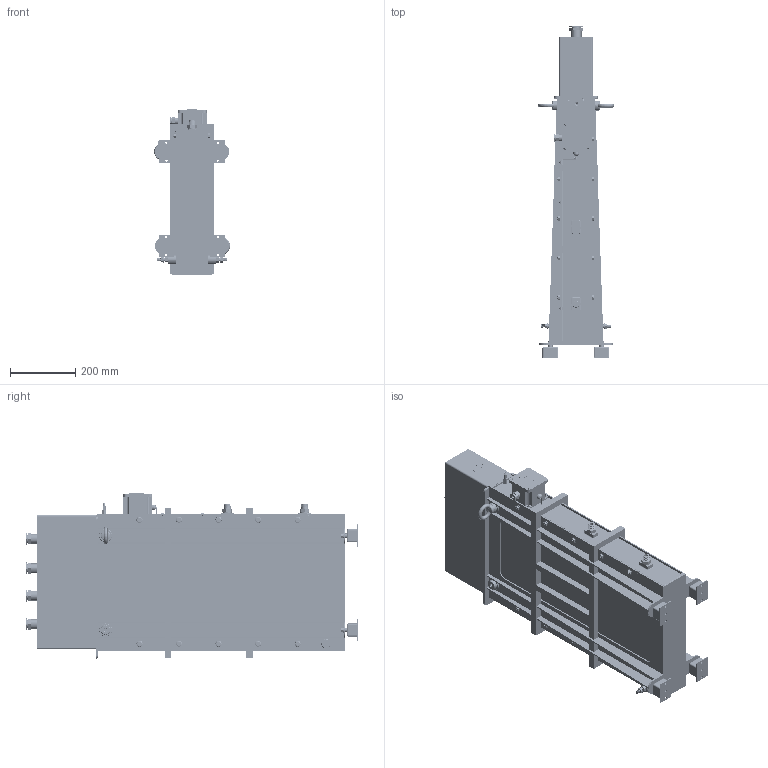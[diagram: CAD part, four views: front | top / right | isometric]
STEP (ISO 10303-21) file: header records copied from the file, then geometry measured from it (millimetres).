
FILE_DESCRIPTION (( 'STEP AP214' ), '1' );
FILE_NAME ('倳昃_1.STEP', '2025-08-07T13:44:54', ( '' ), ( '' ), 'SwSTEP 2.0', 'SolidWorks 2024', '' );
FILE_SCHEMA (( 'AUTOMOTIVE_DESIGN' ));
Length unit declared in the file: millimetre
Products named in the file (80): йк; 000.ПНДР.080.004-1СБ крышка верхнего узла коммутации 4 контакта; термоэлнмент; 678678678; д33; пересм; Детшщзггзгшщзщгшщзаль3; сборка выпуска; сгонн; rh; plain washer chamfered grade a_iso_Washer ISO 7090 - 8; plain washer small grade a_iso_Washer ISO 7092 - 10; н7п8п; 001.114 ЗЕМЛЯ БОНКА; низ1; 000-ризуре; 1 шп8; корё1; Рымболт М12-1; 001.300БОНГО; 000зирур; 000.ПНДР.080.004.2 шина; кв-1; 1а-БОК правый суко; шалььь 2; 1 зад; socket countersunk head screw_iso_ISO 10642 - M4 x 8 - 8N; платте; Сбохгшхгш; крышег; ш1; гшщнщнгщнгщнгщ; шинна внутр55; сборка впуска; hex screw gradeab fine_iso_ISO 8676 - M8x1.0 x 35-N; шаеп; 055.001.12  Внешняя панель; Деталь3; 0000000000000-1 кос22; socket countersunk head screw_iso_ISO 10642 - M6 x 16 - 16N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
Assembly tree (297 placements, depth 5):
  РСМК_1
    платте
    РСМК-1А IP21
      1а-БОК правый суко  x2
      1дно а
      nut_M8-1.25  x20
      0000000000000-1 кос22  x8
      00000000-6 НАВАР  x4
      1 зад
      1 шп8  x10
      001.300БОНГО  x2
        001.114 ЗЕМЛЯ БОНКА
        001.115ГКА
        plain washer small grade a_iso_Washer ISO 7092 - 10
        001.114 ШПИЛЬКА ЗЕМЛЯ3
      1-аПОЯС
      0000000000000-0000000000000000000  x2
      000зирур
        000-РИЗУР-КС-А-090907
        000-ризуре
          000-ккен
        socket countersunk head screw_iso_ISO 10642 - M4 x 8 - 8N  x4
        000ввот
          кв2
          кв-1
          rh
        йк
      socket head cap screw_iso_ISO 4762 M4 x 10 - 10N  x4
    Сбохгшхгш
      ПНДР-081.51.Поддон РСМК-1
      данчик
      Детшщзггзгшщзщгшщзаль3
    гшщнщнгщнгщнгщ  x4
    н7п8п
    pan head cross recess screw_iso_ISO 7045 - M2 x 3 - Z - 3N  x5
    гшщнщнгщнгщнгщ444444444444444444
    socket countersunk head screw_iso_ISO 10642 - M4 x 8 - 8N  x13
    сгонн  x4
      д32
      д33
      678678678
      д34
    ш1
    ш2
    Знак напряжение-шз-6роророо
    шлд
    03477.10.3.123 АКСС15  x4
    hex screw gradeab fine_iso_ISO 8676 - M8x1.0 x 35-N  x4
    plain washer chamfered grade a_iso_Washer ISO 7090 - 8  x4
    000.ТЭ4к
      сборка впуска
      сборка выпуска
      rh20  x2
      socket countersunk head screw_iso_ISO 10642 - M6 x 16 - 16N  x10
      socket head cap screw_iso_ISO 4762 M6 x 20 - 20N  x54
      термоэлнмент  x24
      055.001.12  Внешняя панель  x2
      пкркмычка  x24
      пересм  x3
      Деталь3-1
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Bounding box: 233 x 1017.77 x 507.84 mm (x, y, z)
Volume: 27177693.6 mm3; surface area: 9171792.2 mm2
Topology: 356 solids, 356 shells, 11750 faces, 29436 edges, 18529 vertices
Faces by surface type: cylinder 5525, plane 4226, torus 855, cone 682, bspline 347, sphere 115
Entity records: 296566 total; most frequent: CARTESIAN_POINT 165165, ORIENTED_EDGE 28942, DIRECTION 25463, EDGE_CURVE 14471, AXIS2_PLACEMENT_3D 9376, VERTEX_POINT 9376, LINE 6711, VECTOR 6711
